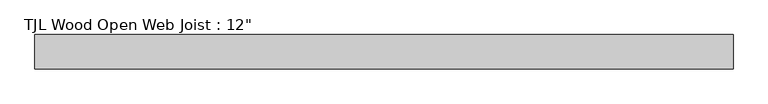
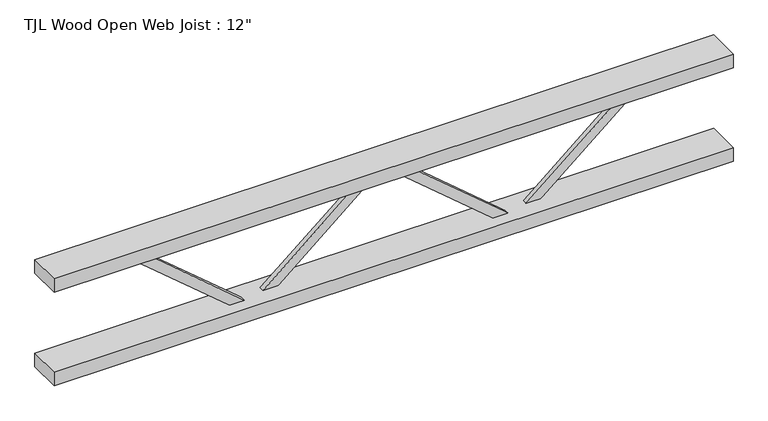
"""IFC4 building model written with IfcOpenShell, lengths in millimetres: beam geometry."""

from ifc_helpers import new_model, si_unit, frame, origin, place, context, project, spatial, polyline, outline, extrude, source, transform, mapped, element, save


def beam_20e0db67(model_context):
    return source(origin(), model_context, "Body", "SweptSolid", [
        extrude(outline(polyline([(119.0625, 701.675), (144.4625, 701.675), (144.4625, 684.3376598), (-119.0625, 371.6001598), (-119.0625, 325.4375), (-144.4625, 325.4375), (-144.4625, 380.8748402), (119.0625, 693.6123402), (119.0625, 701.675)])), frame((0.0, 0.0, 0.0), z_axis=(0.0, 1.0, 0.0), x_axis=(0.0, 0.0, 1.0)), (0.0, 0.0, 1.0), 12.7),
        extrude(outline(polyline([(144.4625, 0.0), (119.0625, 0.0), (119.0625, 8.0626598), (-144.4625, 320.8001598), (-144.4625, 376.2375), (-119.0625, 376.2375), (-119.0625, 330.0748402), (144.4625, 17.3373402), (144.4625, 0.0)])), frame((0.0, -12.7, 0.0), z_axis=(0.0, 1.0, 0.0), x_axis=(0.0, 0.0, 1.0)), (0.0, 0.0, 1.0), 12.7),
        extrude(outline(polyline([(119.0625, 0.0), (144.4625, 0.0), (144.4625, -17.3373402), (-119.0625, -330.0748402), (-119.0625, -376.2375), (-144.4625, -376.2375), (-144.4625, -320.8001598), (119.0625, -8.0626598), (119.0625, 0.0)])), frame((0.0, 0.0, 0.0), z_axis=(0.0, 1.0, 0.0), x_axis=(0.0, 0.0, 1.0)), (0.0, 0.0, 1.0), 12.7),
        extrude(outline(polyline([(144.4625, -701.675), (119.0625, -701.675), (119.0625, -693.6123402), (-144.4625, -380.8748402), (-144.4625, -325.4375), (-119.0625, -325.4375), (-119.0625, -371.6001598), (144.4625, -684.3376598), (144.4625, -701.675)])), frame((0.0, -12.7, 0.0), z_axis=(0.0, 1.0, 0.0), x_axis=(0.0, 0.0, 1.0)), (0.0, 0.0, 1.0), 12.7),
        extrude(outline(polyline([(904.875, 44.45), (904.875, -44.45), (-904.875, -44.45), (-904.875, 44.45), (904.875, 44.45)])), frame((0.0, 0.0, 112.7125), z_axis=(0.0, 0.0, 1.0), x_axis=(1.0, 0.0, 0.0)), (0.0, 0.0, 1.0), 38.1),
        extrude(outline(polyline([(904.875, 44.45), (904.875, -44.45), (-904.875, -44.45), (-904.875, 44.45), (904.875, 44.45)])), frame((0.0, 0.0, -150.8125), z_axis=(0.0, 0.0, 1.0), x_axis=(1.0, 0.0, 0.0)), (0.0, 0.0, 1.0), 38.1),
    ])


if __name__ == "__main__":
    model = new_model("IFC4")
    model_context = context("Model", 3, world=origin())
    ifc_project = project(units=[si_unit("LENGTHUNIT", "METRE", prefix="MILLI")], contexts=[model_context])
    site = spatial("IfcSite", under=ifc_project)
    building = spatial("IfcBuilding", under=site)
    placement = place(None, origin())
    beam_shape = beam_20e0db67(model_context)
    element("IfcBeam", 1, ObjectType="TJL Wood Open Web Joist : 12\"", at=placement, inside=building, context=model_context, shape_type="MappedRepresentation", body=[
        mapped(beam_shape, transform((0.0, 0.0, 0.0), x_axis=(1.0, 0.0, 0.0), y_axis=(0.0, 1.0, 0.0), z_axis=(0.0, 0.0, 1.0))),
    ])
    save(model, "model.ifc")
